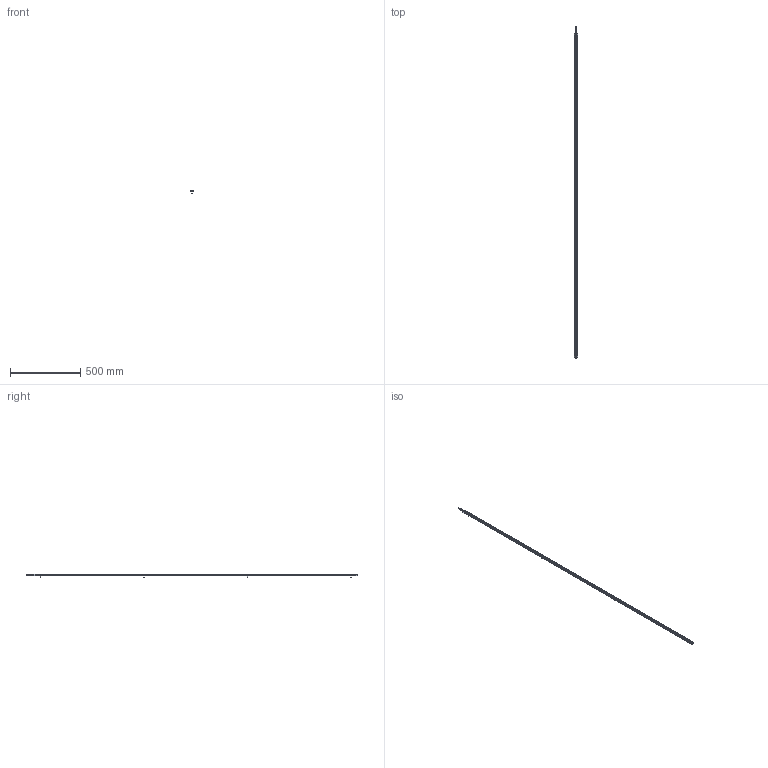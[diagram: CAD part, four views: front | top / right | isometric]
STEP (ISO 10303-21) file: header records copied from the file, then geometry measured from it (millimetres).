
FILE_DESCRIPTION (( 'STEP AP214' ), '1' );
FILE_NAME ('ILGA-B-K2-2310mm.STEP', '2026-04-24T23:05:31', ( '' ), ( '' ), 'SwSTEP 2.0', 'SolidWorks 2025', '' );
FILE_SCHEMA (( 'AUTOMOTIVE_DESIGN' ));
Length unit declared in the file: millimetre
Products named in the file (1): ILGA-B-K2-2310mm
Bounding box: 22.4 x 2364.5 x 25.7 mm (x, y, z)
Surface area: 314915.3 mm2 (no closed solid volume)
Topology: 0 solids, 17 shells, 975 faces, 2532 edges, 1571 vertices
Faces by surface type: cylinder 403, plane 364, cone 86, bspline 56, torus 50, sphere 16
Entity records: 42888 total; most frequent: CARTESIAN_POINT 8692, ORIENTED_EDGE 4945, DIRECTION 4896, EDGE_CURVE 2480, AXIS2_PLACEMENT_3D 1879, VERTEX_POINT 1571, LINE 1138, VECTOR 1138
